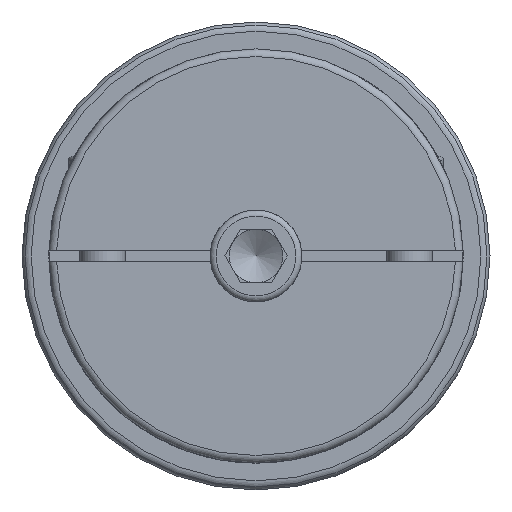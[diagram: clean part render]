
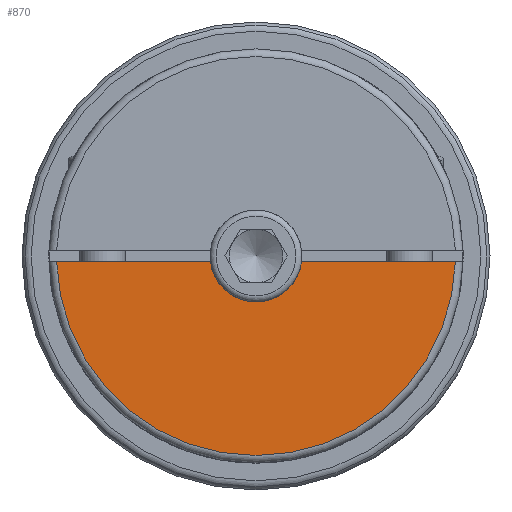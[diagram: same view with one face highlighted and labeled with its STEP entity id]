
A CAD part, left-side view. The second image highlights one B-rep face of the part: STEP entity #870.
In plain terms, the highlighted planar face has unit normal (-1, 0, 0).
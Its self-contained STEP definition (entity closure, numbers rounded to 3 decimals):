
#870 = ADVANCED_FACE( '', ( #2052 ), #2053, .F. );
#2052 = FACE_OUTER_BOUND( '', #3506, .T. );
#2053 = PLANE( '', #3507 );
#3506 = EDGE_LOOP( '', ( #5772, #5773, #5774, #5775 ) );
#3507 = AXIS2_PLACEMENT_3D( '', #5776, #5777, #5778 );
#5772 = ORIENTED_EDGE( '', *, *, #7108, .F. );
#5773 = ORIENTED_EDGE( '', *, *, #7709, .T. );
#5774 = ORIENTED_EDGE( '', *, *, #7710, .F. );
#5775 = ORIENTED_EDGE( '', *, *, #7711, .F. );
#5776 = CARTESIAN_POINT( '', ( 0., 0., 11.5 ) );
#5777 = DIRECTION( '', ( 1., 0., 0. ) );
#5778 = DIRECTION( '', ( 0., 1., 0. ) );
#7108 = EDGE_CURVE( '', #8245, #8247, #8248, .T. );
#7709 = EDGE_CURVE( '', #8245, #9147, #9148, .T. );
#7710 = EDGE_CURVE( '', #9149, #9147, #9150, .T. );
#7711 = EDGE_CURVE( '', #8247, #9149, #9151, .T. );
#8245 = VERTEX_POINT( '', #9950 );
#8247 = VERTEX_POINT( '', #9953 );
#8248 = LINE( '', #9954, #9955 );
#9147 = VERTEX_POINT( '', #12227 );
#9148 = CIRCLE( '', #12228, 12. );
#9149 = VERTEX_POINT( '', #12229 );
#9150 = LINE( '', #12230, #12231 );
#9151 = CIRCLE( '', #12232, 52. );
#9950 = CARTESIAN_POINT( '', ( 0., -11.906, -1.5 ) );
#9953 = CARTESIAN_POINT( '', ( 0., -51.978, -1.5 ) );
#9954 = CARTESIAN_POINT( '', ( 0., 0., -1.5 ) );
#9955 = VECTOR( '', #12974, 1000. );
#12227 = CARTESIAN_POINT( '', ( 0., 11.906, -1.5 ) );
#12228 = AXIS2_PLACEMENT_3D( '', #13763, #13764, #13765 );
#12229 = CARTESIAN_POINT( '', ( 0., 51.978, -1.5 ) );
#12230 = CARTESIAN_POINT( '', ( 0., 0., -1.5 ) );
#12231 = VECTOR( '', #13766, 1000. );
#12232 = AXIS2_PLACEMENT_3D( '', #13767, #13768, #13769 );
#12974 = DIRECTION( '', ( 0., -1., 0. ) );
#13763 = CARTESIAN_POINT( '', ( 0., 0., 0. ) );
#13764 = DIRECTION( '', ( 1., 0., 0. ) );
#13765 = DIRECTION( '', ( 0., -1., 0. ) );
#13766 = DIRECTION( '', ( 0., -1., 0. ) );
#13767 = CARTESIAN_POINT( '', ( 0., 0., 0. ) );
#13768 = DIRECTION( '', ( 1., 0., 0. ) );
#13769 = DIRECTION( '', ( 0., 0., 1. ) );
